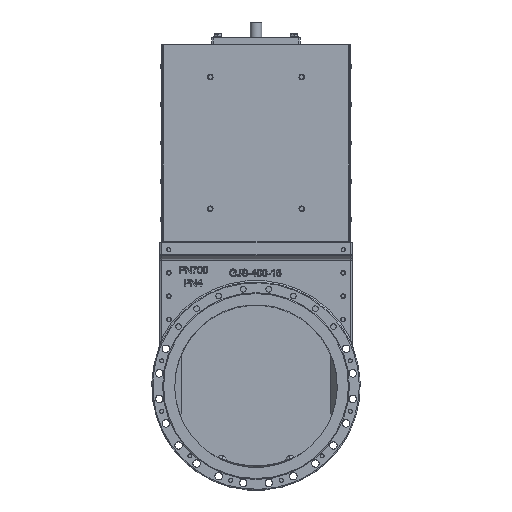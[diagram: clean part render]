
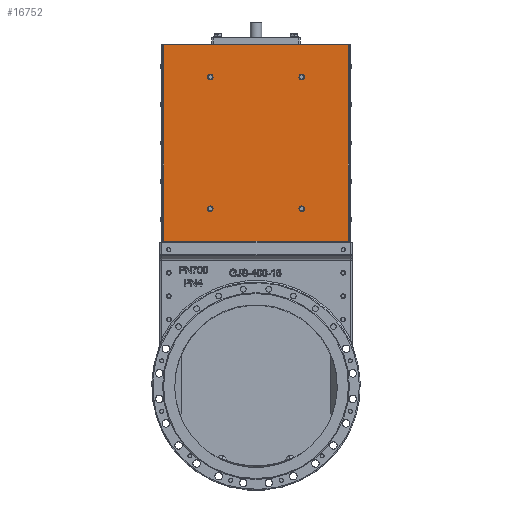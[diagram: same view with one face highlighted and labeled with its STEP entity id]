
A CAD part, top view. The second image highlights one B-rep face of the part: STEP entity #16752.
In plain terms, the highlighted planar face has unit normal (0, 0, 1).
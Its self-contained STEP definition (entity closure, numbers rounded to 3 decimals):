
#12876=FACE_BOUND('',#22560,.T.);
#12877=FACE_BOUND('',#22561,.T.);
#12878=FACE_BOUND('',#22562,.T.);
#12879=FACE_BOUND('',#22563,.T.);
#12880=FACE_BOUND('',#22564,.T.);
#14422=PLANE('',#53241);
#16752=ADVANCED_FACE('',(#12876,#12877,#12878,#12879,#12880),#14422,.T.);
#22560=EDGE_LOOP('',(#34896));
#22561=EDGE_LOOP('',(#34897));
#22562=EDGE_LOOP('',(#34898));
#22563=EDGE_LOOP('',(#34899));
#22564=EDGE_LOOP('',(#34900,#34901,#34902,#34903,#34904,#34905));
#26101=CIRCLE('',#53237,12.);
#26102=CIRCLE('',#53238,12.);
#26103=CIRCLE('',#53239,12.);
#26104=CIRCLE('',#53240,12.);
#34896=ORIENTED_EDGE('',*,*,#45078,.T.);
#34897=ORIENTED_EDGE('',*,*,#45079,.T.);
#34898=ORIENTED_EDGE('',*,*,#45080,.T.);
#34899=ORIENTED_EDGE('',*,*,#45081,.T.);
#34900=ORIENTED_EDGE('',*,*,#45082,.F.);
#34901=ORIENTED_EDGE('',*,*,#45083,.T.);
#34902=ORIENTED_EDGE('',*,*,#45084,.F.);
#34903=ORIENTED_EDGE('',*,*,#40858,.F.);
#34904=ORIENTED_EDGE('',*,*,#45085,.F.);
#34905=ORIENTED_EDGE('',*,*,#45086,.T.);
#37093=VERTEX_POINT('',#64584);
#37095=VERTEX_POINT('',#64587);
#40123=VERTEX_POINT('',#88025);
#40124=VERTEX_POINT('',#88027);
#40125=VERTEX_POINT('',#88029);
#40126=VERTEX_POINT('',#88031);
#40127=VERTEX_POINT('',#88033);
#40128=VERTEX_POINT('',#88034);
#40129=VERTEX_POINT('',#88036);
#40130=VERTEX_POINT('',#88039);
#40858=EDGE_CURVE('',#37093,#37095,#46084,.T.);
#45078=EDGE_CURVE('',#40123,#40123,#26101,.T.);
#45079=EDGE_CURVE('',#40124,#40124,#26102,.T.);
#45080=EDGE_CURVE('',#40125,#40125,#26103,.T.);
#45081=EDGE_CURVE('',#40126,#40126,#26104,.T.);
#45082=EDGE_CURVE('',#40127,#40128,#47816,.T.);
#45083=EDGE_CURVE('',#40127,#40129,#47817,.T.);
#45084=EDGE_CURVE('',#37095,#40129,#47818,.T.);
#45085=EDGE_CURVE('',#40130,#37093,#47819,.T.);
#45086=EDGE_CURVE('',#40130,#40128,#47820,.T.);
#46084=LINE('',#64586,#48201);
#47816=LINE('',#88032,#49935);
#47817=LINE('',#88035,#49936);
#47818=LINE('',#88037,#49937);
#47819=LINE('',#88038,#49938);
#47820=LINE('',#88040,#49939);
#48201=VECTOR('',#54405,1.);
#49935=VECTOR('',#61941,1.);
#49936=VECTOR('',#61942,1.);
#49937=VECTOR('',#61943,1.);
#49938=VECTOR('',#61944,1.);
#49939=VECTOR('',#61945,1.);
#53237=AXIS2_PLACEMENT_3D('',#88024,#61933,#61934);
#53238=AXIS2_PLACEMENT_3D('',#88026,#61935,#61936);
#53239=AXIS2_PLACEMENT_3D('',#88028,#61937,#61938);
#53240=AXIS2_PLACEMENT_3D('',#88030,#61939,#61940);
#53241=AXIS2_PLACEMENT_3D('',#88041,#61946,#61947);
#54405=DIRECTION('',(1.,0.,0.));
#61933=DIRECTION('',(0.,0.,-1.));
#61934=DIRECTION('',(1.,0.,0.));
#61935=DIRECTION('',(0.,0.,-1.));
#61936=DIRECTION('',(1.,0.,0.));
#61937=DIRECTION('',(0.,0.,-1.));
#61938=DIRECTION('',(0.,-1.,0.));
#61939=DIRECTION('',(0.,0.,-1.));
#61940=DIRECTION('',(0.,-1.,0.));
#61941=DIRECTION('',(-1.,0.,0.));
#61942=DIRECTION('',(0.,1.,0.));
#61943=DIRECTION('',(1.,0.,0.));
#61944=DIRECTION('',(1.,0.,0.));
#61945=DIRECTION('',(0.,-1.,0.));
#61946=DIRECTION('',(0.,0.,1.));
#61947=DIRECTION('',(1.,0.,0.));
#64584=CARTESIAN_POINT('',(-190.,1470.,107.));
#64586=CARTESIAN_POINT('',(0.,1470.,107.));
#64587=CARTESIAN_POINT('',(190.,1470.,107.));
#88024=CARTESIAN_POINT('',(197.,763.,107.));
#88025=CARTESIAN_POINT('',(209.,763.,107.));
#88026=CARTESIAN_POINT('',(197.,1330.,107.));
#88027=CARTESIAN_POINT('',(209.,1330.,107.));
#88028=CARTESIAN_POINT('',(-197.,763.,107.));
#88029=CARTESIAN_POINT('',(-197.,751.,107.));
#88030=CARTESIAN_POINT('',(-197.,1330.,107.));
#88031=CARTESIAN_POINT('',(-197.,1318.,107.));
#88032=CARTESIAN_POINT('',(0.,623.,107.));
#88033=CARTESIAN_POINT('',(397.75,623.,107.));
#88034=CARTESIAN_POINT('',(-397.75,623.,107.));
#88035=CARTESIAN_POINT('',(397.75,951.5,107.));
#88036=CARTESIAN_POINT('',(397.75,1470.,107.));
#88037=CARTESIAN_POINT('',(0.,1470.,107.));
#88038=CARTESIAN_POINT('',(0.,1470.,107.));
#88039=CARTESIAN_POINT('',(-397.75,1470.,107.));
#88040=CARTESIAN_POINT('',(-397.75,951.5,107.));
#88041=CARTESIAN_POINT('',(0.,951.5,107.));
